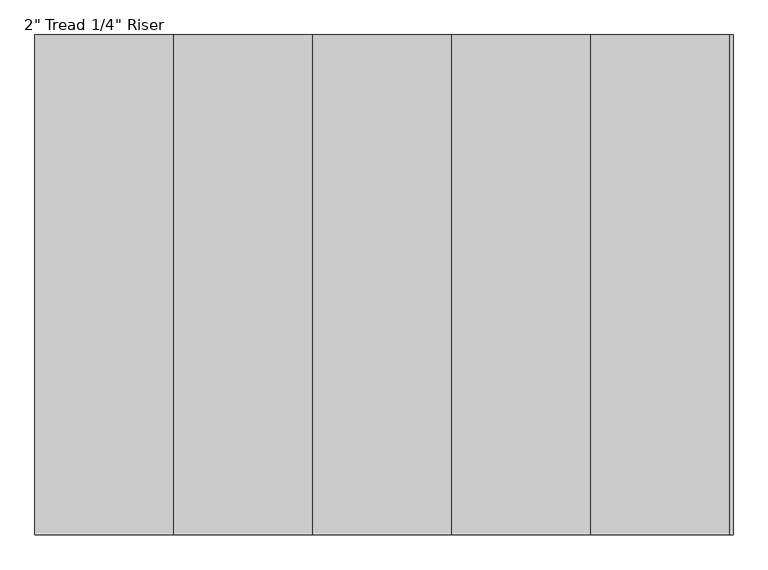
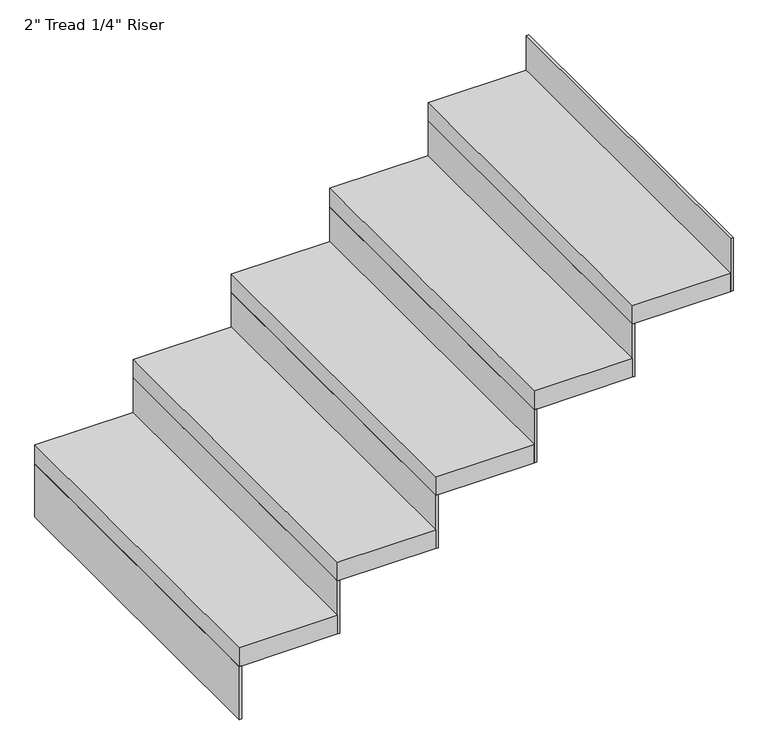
"""IFC4 building model written with IfcOpenShell, lengths in millimetres: stair flight geometry."""

from ifc_helpers import new_model, si_unit, frame, origin, place, context, project, spatial, polyline, outline, extrude, source, transform, mapped, element, save


def stair_flight_fbbe2258(model_context):
    return source(origin(), model_context, "Body", "SweptSolid", [
        extrude(outline(polyline([(139632.4382982, 33927.1265585), (139626.0882982, 33927.1265585), (139626.0882982, 34841.5265585), (139632.4382982, 34841.5265585), (139632.4382982, 33927.1265585)])), frame((0.0, 0.0, 2126.3428571), z_axis=(0.0, 0.0, 1.0), x_axis=(1.0, 0.0, 0.0)), (0.0, 0.0, 1.0), 145.1428571),
        extrude(outline(polyline([(139880.0882982, 34841.5265585), (139880.0882982, 33927.1265585), (139626.0882982, 33927.1265585), (139626.0882982, 34841.5265585), (139880.0882982, 34841.5265585)])), frame((0.0, 0.0, 2271.4857143), z_axis=(0.0, 0.0, 1.0), x_axis=(1.0, 0.0, 0.0)), (0.0, 0.0, 1.0), 50.8),
        extrude(outline(polyline([(139886.4382982, 33927.1265585), (139880.0882982, 33927.1265585), (139880.0882982, 34841.5265585), (139886.4382982, 34841.5265585), (139886.4382982, 33927.1265585)])), frame((0.0, 0.0, 2271.4857143), z_axis=(0.0, 0.0, 1.0), x_axis=(1.0, 0.0, 0.0)), (0.0, 0.0, 1.0), 145.1428571),
        extrude(outline(polyline([(140134.0882982, 34841.5265585), (140134.0882982, 33927.1265585), (139880.0882982, 33927.1265585), (139880.0882982, 34841.5265585), (140134.0882982, 34841.5265585)])), frame((0.0, 0.0, 2416.6285714), z_axis=(0.0, 0.0, 1.0), x_axis=(1.0, 0.0, 0.0)), (0.0, 0.0, 1.0), 50.8),
        extrude(outline(polyline([(140140.4382982, 33927.1265585), (140134.0882982, 33927.1265585), (140134.0882982, 34841.5265585), (140140.4382982, 34841.5265585), (140140.4382982, 33927.1265585)])), frame((0.0, 0.0, 2416.6285714), z_axis=(0.0, 0.0, 1.0), x_axis=(1.0, 0.0, 0.0)), (0.0, 0.0, 1.0), 145.1428571),
        extrude(outline(polyline([(140388.0882982, 34841.5265585), (140388.0882982, 33927.1265585), (140134.0882982, 33927.1265585), (140134.0882982, 34841.5265585), (140388.0882982, 34841.5265585)])), frame((0.0, 0.0, 2561.7714286), z_axis=(0.0, 0.0, 1.0), x_axis=(1.0, 0.0, 0.0)), (0.0, 0.0, 1.0), 50.8),
        extrude(outline(polyline([(140394.4382982, 33927.1265585), (140388.0882982, 33927.1265585), (140388.0882982, 34841.5265585), (140394.4382982, 34841.5265585), (140394.4382982, 33927.1265585)])), frame((0.0, 0.0, 2561.7714286), z_axis=(0.0, 0.0, 1.0), x_axis=(1.0, 0.0, 0.0)), (0.0, 0.0, 1.0), 145.1428571),
        extrude(outline(polyline([(140642.0882982, 34841.5265585), (140642.0882982, 33927.1265585), (140388.0882982, 33927.1265585), (140388.0882982, 34841.5265585), (140642.0882982, 34841.5265585)])), frame((0.0, 0.0, 2706.9142857), z_axis=(0.0, 0.0, 1.0), x_axis=(1.0, 0.0, 0.0)), (0.0, 0.0, 1.0), 50.8),
        extrude(outline(polyline([(140648.4382982, 33927.1265585), (140642.0882982, 33927.1265585), (140642.0882982, 34841.5265585), (140648.4382982, 34841.5265585), (140648.4382982, 33927.1265585)])), frame((0.0, 0.0, 2706.9142857), z_axis=(0.0, 0.0, 1.0), x_axis=(1.0, 0.0, 0.0)), (0.0, 0.0, 1.0), 145.1428571),
        extrude(outline(polyline([(140902.4382982, 33927.1265585), (140896.0882982, 33927.1265585), (140896.0882982, 34841.5265585), (140902.4382982, 34841.5265585), (140902.4382982, 33927.1265585)])), frame((0.0, 0.0, 2852.0571429), z_axis=(0.0, 0.0, 1.0), x_axis=(1.0, 0.0, 0.0)), (0.0, 0.0, 1.0), 145.1428571),
        extrude(outline(polyline([(140896.0882982, 34841.5265585), (140896.0882982, 33927.1265585), (140642.0882982, 33927.1265585), (140642.0882982, 34841.5265585), (140896.0882982, 34841.5265585)])), frame((0.0, 0.0, 2852.0571429), z_axis=(0.0, 0.0, 1.0), x_axis=(1.0, 0.0, 0.0)), (0.0, 0.0, 1.0), 50.8),
    ])


if __name__ == "__main__":
    model = new_model("IFC4")
    model_context = context("Model", 3, world=origin())
    ifc_project = project(units=[si_unit("LENGTHUNIT", "METRE", prefix="MILLI")], contexts=[model_context])
    site = spatial("IfcSite", under=ifc_project)
    building = spatial("IfcBuilding", under=site)
    placement = place(None, origin())
    stair_flight_shape = stair_flight_fbbe2258(model_context)
    element("IfcStairFlight", 1, ObjectType="2\" Tread 1/4\" Riser", at=placement, inside=building, context=model_context, shape_type="MappedRepresentation", body=[
        mapped(stair_flight_shape, transform((0.0, 0.0, 0.0), x_axis=(1.0, 0.0, 0.0), y_axis=(0.0, 1.0, 0.0), z_axis=(0.0, 0.0, 1.0))),
    ])
    save(model, "model.ifc")
